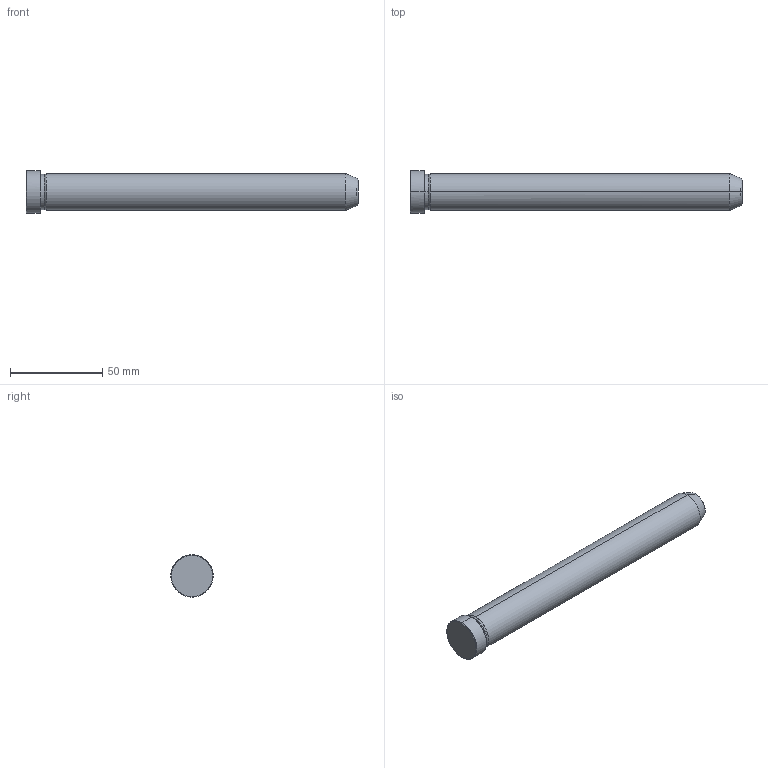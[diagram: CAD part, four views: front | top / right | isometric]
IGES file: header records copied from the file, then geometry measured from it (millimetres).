
Start section: START RECORD GO HERE.
Global section: file name: 549-20X180.igs; native system: DASSAULT SYSTEMES CATIA V5 R20 - www.3ds.com; preprocessor: CATIA Version 5 Release 20 ; author: Utente; organization: NB04-ASUS; date: 20211211.105053; units: millimetre
Bounding box: 180 x 23 x 23 mm (x, y, z)
Surface area: 12029 mm2 (no closed solid volume)
Topology: 0 solids, 0 shells, 19 faces, 112 edges, 112 vertices
Faces by surface type: revolution 16, plane 3
